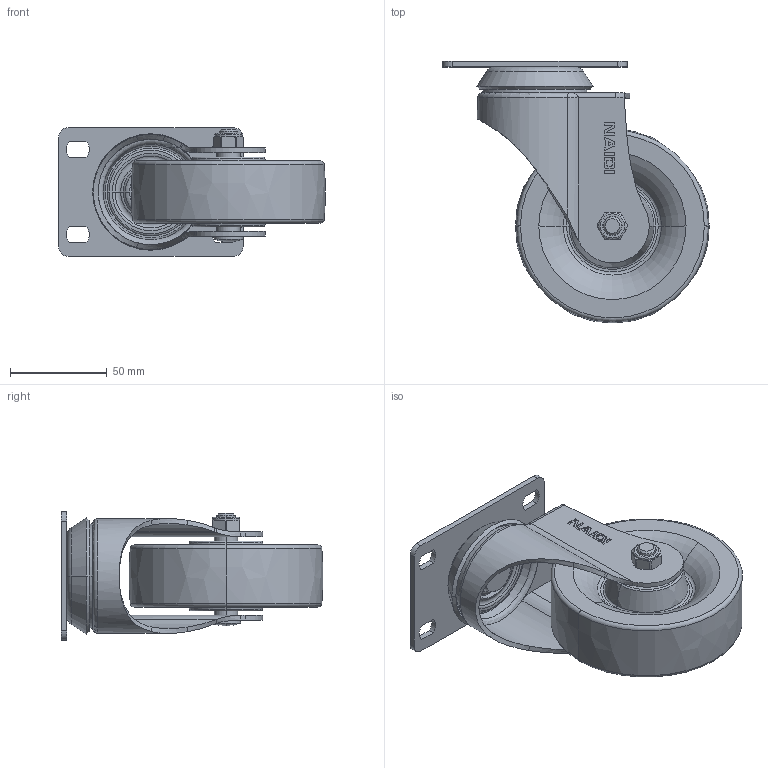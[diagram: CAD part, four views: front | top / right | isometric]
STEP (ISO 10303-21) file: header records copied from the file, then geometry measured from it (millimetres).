
FILE_DESCRIPTION((''),'2;1');
FILE_NAME('B551141_ASM','2024-08-13T',('Lenovo'),(''),'PRO/ENGINEER BY PARAMETRIC TECHNOLOGY CORPORATION, 2010280','PRO/ENGINEER BY PARAMETRIC TECHNOLOGY CORPORATION, 2010280','');
FILE_SCHEMA(('CONFIG_CONTROL_DESIGN'));
Length unit declared in the file: millimetre
Products named in the file (9): B5514-311; 570-03A; 570-01; 500-31; B554-986; 500-54; 570-33; 570-34; B551141_ASM
Assembly tree (8 placements, depth 2):
  B551141_ASM
    B5514-311
    570-03A
    570-01
    500-31
    B554-986
    500-54
    570-33
    570-34
Bounding box: 137.41 x 134.93 x 66.5 mm (x, y, z)
Volume: 283747.8 mm3; surface area: 85837.8 mm2
Topology: 8 solids, 8 shells, 310 faces, 727 edges, 449 vertices
Faces by surface type: plane 117, cylinder 64, torus 63, cone 38, bspline 20, extrusion 6, sphere 2
Entity records: 10045 total; most frequent: CARTESIAN_POINT 2664, DIRECTION 1579, ORIENTED_EDGE 1450, EDGE_CURVE 725, AXIS2_PLACEMENT_3D 623, VERTEX_POINT 449, EDGE_LOOP 352, VECTOR 333
